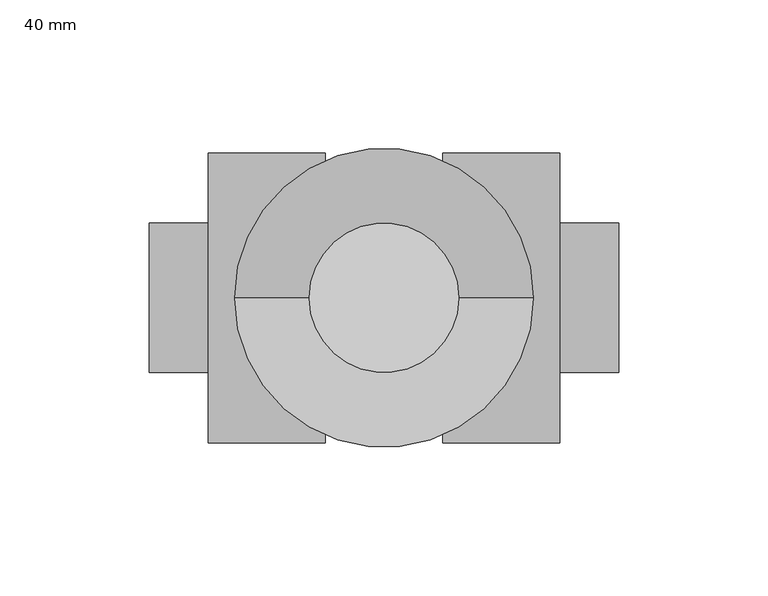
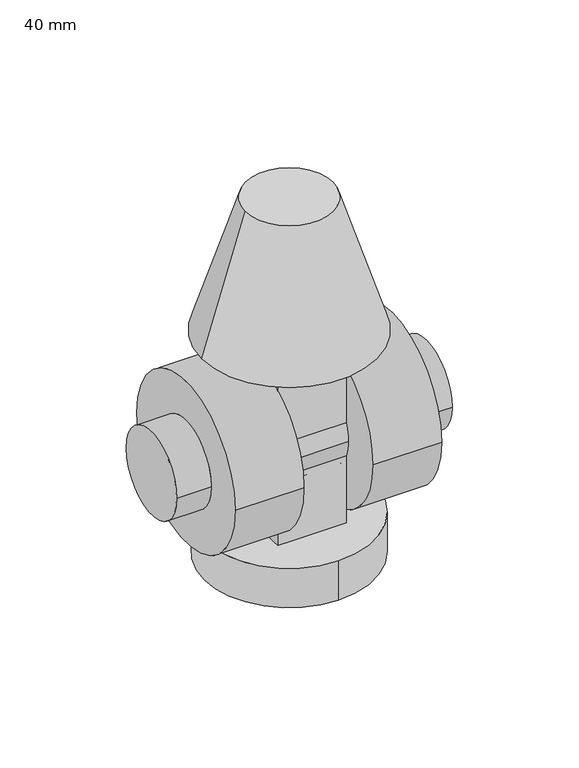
"""IFC4 building model written with IfcOpenShell, lengths in millimetres: valve geometry, Vanne Mitigeuse DN40 : 40 mm."""

from ifc_helpers import new_model, si_unit, point, frame, origin, origin_2d, place, context, project, spatial, polyline, circle_curve, trimmed, segment, composite_curve, outline, extrude, source, transform, mapped, element, save
from ifc_brep_helpers import plane_surface, cylinder_surface, revolved_surface, advanced_brep


def valve_40_mm_2b461cc3(model_context):
    return source(origin(), model_context, "Body", "SolidModel", [
        extrude(outline(composite_curve([segment(trimmed(circle_curve(origin_2d(), 25.0), [point((-25.0, 0.0))], [point((25.0, 0.0))], False, "CARTESIAN"), True, "CONTINUOUS"), segment(trimmed(circle_curve(origin_2d(), 25.0), [point((25.0, 0.0))], [point((-25.0, 0.0))], False, "CARTESIAN"), True, "CONTINUOUS")], self_intersect=False)), frame((0.0, 0.0, -86.625), z_axis=(0.0, 0.0, 1.0), x_axis=(1.0, 0.0, 0.0)), (0.0, 0.0, 1.0), 11.875),
        extrude(outline(composite_curve([segment(trimmed(circle_curve(origin_2d(), 48.5), [point((0.0, -48.5))], [point((0.0, 48.5))], False, "CARTESIAN"), True, "CONTINUOUS"), segment(trimmed(circle_curve(origin_2d(), 48.5), [point((0.0, 48.5))], [point((0.0, -48.5))], False, "CARTESIAN"), True, "CONTINUOUS")], self_intersect=False)), frame((0.0, 0.0, -74.75), z_axis=(0.0, 0.0, 1.0), x_axis=(1.0, 0.0, 0.0)), (0.0, 0.0, 1.0), 23.75),
        advanced_brep(
        [(19.625, 22.5, 59.0257758), (-19.625, 22.5, 59.0257758), (-19.625, -22.5, 59.0257758), (19.625, -22.5, 59.0257758), (19.625, 22.5, -51.0), (19.625, -22.5, -51.0), (-19.625, -22.5, -51.0), (-19.625, 22.5, -51.0), (19.625, 22.5, 42.9651021), (19.625, 22.5, -42.9651021), (-19.625, 22.5, -42.9651021), (-19.625, 22.5, 42.9651021), (-19.625, -22.5, 42.9651021), (-19.625, -22.5, -42.9651021), (19.625, -22.5, -42.9651021), (19.625, -22.5, 42.9651021), (-58.875, -48.5, 0.0), (-58.875, 48.5, 0.0), (-58.875, 25.0, 0.0), (-58.875, -25.0, 0.0), (-19.625, 48.5, 0.0), (-19.625, -48.5, 0.0), (-78.5, -25.0, 0.0), (-78.5, 25.0, 0.0), (19.625, 48.5, 0.0), (19.625, -48.5, 0.0), (58.875, -48.5, 0.0), (58.875, 48.5, 0.0), (58.875, -25.0, 0.0), (58.875, 25.0, 0.0), (78.5, -25.0, 0.0), (78.5, 25.0, 0.0)],
        [
            (0, 1),
            (1, 2),
            (2, 3),
            (3, 0),
            (4, 5),
            (5, 6),
            (6, 7),
            (7, 4),
            (0, 8),
            (8, 9),
            (9, 4),
            (7, 10),
            (10, 11),
            (11, 1),
            (11, 12, circle_curve(frame((-19.625, 0.0, 0.0), z_axis=(1.0, 0.0, 0.0), x_axis=(0.0, 1.0, 0.0)), 48.5)),
            (12, 2),
            (6, 13),
            (13, 10, circle_curve(frame((-19.625, 0.0, 0.0), z_axis=(1.0, 0.0, 0.0), x_axis=(0.0, 1.0, 0.0)), 48.5)),
            (12, 13),
            (5, 14),
            (14, 15),
            (15, 3),
            (15, 8, circle_curve(frame((19.625, 0.0, 0.0), z_axis=(-1.0, 0.0, 0.0), x_axis=(0.0, 1.0, 0.0)), 48.5)),
            (9, 14, circle_curve(frame((19.625, 0.0, 0.0), z_axis=(-1.0, 0.0, 0.0), x_axis=(0.0, 1.0, 0.0)), 48.5)),
            (16, 17, circle_curve(frame((-58.875, 0.0, 0.0), z_axis=(-1.0, 0.0, 0.0), x_axis=(0.0, 1.0, 0.0)), 48.5)),
            (17, 16, circle_curve(frame((-58.875, 0.0, 0.0), z_axis=(-1.0, 0.0, 0.0), x_axis=(0.0, 1.0, 0.0)), 48.5)),
            (18, 19, circle_curve(frame((-58.875, 0.0, 0.0), z_axis=(1.0, 0.0, 0.0), x_axis=(0.0, 1.0, 0.0)), 25.0)),
            (19, 18, circle_curve(frame((-58.875, 0.0, 0.0), z_axis=(1.0, 0.0, 0.0), x_axis=(0.0, 1.0, 0.0)), 25.0)),
            (20, 11, circle_curve(frame((-19.625, 0.0, 0.0), z_axis=(1.0, 0.0, 0.0), x_axis=(0.0, 1.0, 0.0)), 48.5)),
            (10, 20, circle_curve(frame((-19.625, 0.0, 0.0), z_axis=(1.0, 0.0, 0.0), x_axis=(0.0, 1.0, 0.0)), 48.5)),
            (12, 21, circle_curve(frame((-19.625, 0.0, 0.0), z_axis=(1.0, 0.0, 0.0), x_axis=(0.0, 1.0, 0.0)), 48.5)),
            (21, 13, circle_curve(frame((-19.625, 0.0, 0.0), z_axis=(1.0, 0.0, 0.0), x_axis=(0.0, 1.0, 0.0)), 48.5)),
            (16, 21),
            (20, 17),
            (22, 23, circle_curve(frame((-78.5, 0.0, 0.0), z_axis=(-1.0, 0.0, 0.0), x_axis=(0.0, 1.0, 0.0)), 25.0)),
            (23, 22, circle_curve(frame((-78.5, 0.0, 0.0), z_axis=(-1.0, 0.0, 0.0), x_axis=(0.0, 1.0, 0.0)), 25.0)),
            (22, 19),
            (18, 23),
            (8, 24, circle_curve(frame((19.625, 0.0, 0.0), z_axis=(-1.0, 0.0, 0.0), x_axis=(0.0, 1.0, 0.0)), 48.5)),
            (24, 9, circle_curve(frame((19.625, 0.0, 0.0), z_axis=(-1.0, 0.0, 0.0), x_axis=(0.0, 1.0, 0.0)), 48.5)),
            (25, 15, circle_curve(frame((19.625, 0.0, 0.0), z_axis=(-1.0, 0.0, 0.0), x_axis=(0.0, 1.0, 0.0)), 48.5)),
            (14, 25, circle_curve(frame((19.625, 0.0, 0.0), z_axis=(-1.0, 0.0, 0.0), x_axis=(0.0, 1.0, 0.0)), 48.5)),
            (26, 27, circle_curve(frame((58.875, 0.0, 0.0), z_axis=(1.0, 0.0, 0.0), x_axis=(0.0, 1.0, 0.0)), 48.5)),
            (27, 26, circle_curve(frame((58.875, 0.0, 0.0), z_axis=(1.0, 0.0, 0.0), x_axis=(0.0, 1.0, 0.0)), 48.5)),
            (28, 29, circle_curve(frame((58.875, 0.0, 0.0), z_axis=(-1.0, 0.0, 0.0), x_axis=(0.0, 1.0, 0.0)), 25.0)),
            (29, 28, circle_curve(frame((58.875, 0.0, 0.0), z_axis=(-1.0, 0.0, 0.0), x_axis=(0.0, 1.0, 0.0)), 25.0)),
            (27, 24),
            (25, 26),
            (30, 31, circle_curve(frame((78.5, 0.0, 0.0), z_axis=(1.0, 0.0, 0.0), x_axis=(0.0, 1.0, 0.0)), 25.0)),
            (31, 30, circle_curve(frame((78.5, 0.0, 0.0), z_axis=(1.0, 0.0, 0.0), x_axis=(0.0, 1.0, 0.0)), 25.0)),
            (31, 29),
            (28, 30),
        ],
        [
            plane_surface(frame((-19.625, 22.5, 59.0257758), z_axis=(0.0, 0.0, 1.0), x_axis=(-1.0, 0.0, 0.0))),
            plane_surface(frame((-19.625, 22.5, -51.0), z_axis=(0.0, 0.0, -1.0), x_axis=(1.0, 0.0, 0.0))),
            plane_surface(frame((19.625, 22.5, 59.0257758), z_axis=(0.0, 1.0, 0.0), x_axis=(0.0, 0.0, -1.0))),
            plane_surface(frame((-19.625, 22.5, 59.0257758), z_axis=(-1.0, 0.0, 0.0), x_axis=(0.0, 0.0, -1.0))),
            plane_surface(frame((-19.625, -22.5, 59.0257758), z_axis=(0.0, -1.0, 0.0), x_axis=(0.0, 0.0, -1.0))),
            plane_surface(frame((19.625, -22.5, 59.0257758), z_axis=(1.0, 0.0, 0.0), x_axis=(0.0, 0.0, -1.0))),
            plane_surface(frame((-58.875, 0.0, 0.0), z_axis=(-1.0, 0.0, 0.0), x_axis=(0.0, 0.0, 1.0))),
            plane_surface(frame((-19.625, 0.0, 0.0), z_axis=(1.0, 0.0, 0.0), x_axis=(0.0, 0.0, 1.0))),
            cylinder_surface(frame((-58.875, 0.0, 0.0), z_axis=(-1.0, 0.0, 0.0), x_axis=(0.0, 1.0, 0.0)), 48.5),
            plane_surface(frame((-78.5, 0.0, 0.0), z_axis=(-1.0, 0.0, 0.0), x_axis=(0.0, 0.0, 1.0))),
            cylinder_surface(frame((-78.5, 0.0, 0.0), z_axis=(-1.0, 0.0, 0.0), x_axis=(0.0, 1.0, 0.0)), 25.0),
            plane_surface(frame((19.625, 0.0, 0.0), z_axis=(-1.0, 0.0, 0.0), x_axis=(0.0, 0.0, 1.0))),
            plane_surface(frame((58.875, 0.0, 0.0), z_axis=(1.0, 0.0, 0.0), x_axis=(0.0, 0.0, 1.0))),
            cylinder_surface(frame((19.625, 0.0, 0.0), z_axis=(-1.0, 0.0, 0.0), x_axis=(0.0, 1.0, 0.0)), 48.5),
            plane_surface(frame((78.5, 0.0, 0.0), z_axis=(1.0, 0.0, 0.0), x_axis=(0.0, 0.0, 1.0))),
            cylinder_surface(frame((58.875, 0.0, 0.0), z_axis=(-1.0, 0.0, 0.0), x_axis=(0.0, 1.0, 0.0)), 25.0),
        ],
        [
            (0, [[1, 2, 3, 4]]),
            (1, [[5, 6, 7, 8]]),
            (2, [[-1, 9, 10, 11, -8, 12, 13, 14]]),
            (3, [[-2, -14, 15, 16]]),
            (3, [[-7, 17, 18, -12]]),
            (4, [[-3, -16, 19, -17, -6, 20, 21, 22]]),
            (5, [[-4, -22, 23, -9]]),
            (5, [[-5, -11, 24, -20]]),
            (6, [[25, 26], [27, 28]]),
            (7, [[29, -13, 30]]),
            (7, [[31, 32, -19]]),
            (8, [[-25, 33, -31, -15, -29, 34]]),
            (8, [[-26, -34, -30, -18, -32, -33]]),
            (9, [[35, 36]]),
            (10, [[-35, 37, -27, 38]]),
            (10, [[-36, -38, -28, -37]]),
            (11, [[39, 40, -10]]),
            (11, [[41, -21, 42]]),
            (12, [[43, 44], [45, 46]]),
            (13, [[-44, 47, -39, -23, -41, 48]]),
            (13, [[-43, -48, -42, -24, -40, -47]]),
            (14, [[49, 50]]),
            (15, [[-50, 51, -45, 52]]),
            (15, [[-49, -52, -46, -51]]),
        ],
    ),
        extrude(outline(composite_curve([segment(trimmed(circle_curve(origin_2d(), 25.0), [point((-25.0, 0.0))], [point((25.0, 0.0))], False, "CARTESIAN"), True, "CONTINUOUS"), segment(trimmed(circle_curve(origin_2d(), 25.0), [point((25.0, 0.0))], [point((-25.0, 0.0))], False, "CARTESIAN"), True, "CONTINUOUS")], self_intersect=False)), frame((-19.625, 0.0, 0.0), z_axis=(1.0, 0.0, 0.0), x_axis=(0.0, 1.0, 0.0)), (0.0, 0.0, 1.0), 39.25),
        advanced_brep(
        [(-25.0, 0.0, 139.0257758), (25.0, 0.0, 139.0257758), (-50.0, 0.0, 59.0257758), (50.0, 0.0, 59.0257758)],
        [
            (0, 1, circle_curve(frame((0.0, 0.0, 139.0257758), z_axis=(0.0, 0.0, 1.0), x_axis=(-1.0, 0.0, 0.0)), 25.0)),
            (1, 0, circle_curve(frame((0.0, 0.0, 139.0257758), z_axis=(0.0, 0.0, 1.0), x_axis=(1.0, 0.0, 0.0)), 25.0)),
            (2, 3, circle_curve(frame((0.0, 0.0, 59.0257758), z_axis=(0.0, 0.0, -1.0), x_axis=(1.0, 0.0, 0.0)), 50.0)),
            (3, 2, circle_curve(frame((0.0, 0.0, 59.0257758), z_axis=(0.0, 0.0, -1.0), x_axis=(-1.0, 0.0, 0.0)), 50.0)),
            (3, 1),
            (0, 2),
        ],
        [
            plane_surface(frame((0.0, 0.0, 139.0257758), z_axis=(0.0, 0.0, 1.0), x_axis=(0.0, -1.0, 0.0))),
            plane_surface(frame((0.0, 0.0, 59.0257758), z_axis=(0.0, 0.0, -1.0), x_axis=(0.0, -1.0, 0.0))),
            revolved_surface(polyline([(-25.0, 0.0, 139.0257758), (-50.0, 0.0, 59.02577579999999)]), (0.0, 0.0, 219.0257758), (0.0, 0.0, -1.0)),
            revolved_surface(polyline([(25.0, 0.0, 139.0257758), (50.0, 0.0, 59.02577579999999)]), (0.0, 0.0, 219.0257758), (0.0, 0.0, -1.0)),
        ],
        [
            (0, [[1, 2]]),
            (1, [[3, 4]]),
            (2, [[-4, 5, -1, 6]]),
            (3, [[-3, -6, -2, -5]]),
        ],
    ),
    ])


if __name__ == "__main__":
    model = new_model("IFC4")
    model_context = context("Model", 3, world=origin())
    ifc_project = project(units=[si_unit("LENGTHUNIT", "METRE", prefix="MILLI")], contexts=[model_context])
    site = spatial("IfcSite", under=ifc_project)
    building = spatial("IfcBuilding", under=site)
    placement = place(None, origin())
    valve_40_mm_shape = valve_40_mm_2b461cc3(model_context)
    element("IfcValve", 1, ObjectType="Vanne Mitigeuse DN40 : 40 mm", at=placement, inside=building, context=model_context, shape_type="MappedRepresentation", body=[
        mapped(valve_40_mm_shape, transform((0.0, 0.0, 0.0), x_axis=(1.0, 0.0, 0.0), y_axis=(0.0, 1.0, 0.0), z_axis=(0.0, 0.0, 1.0))),
    ])
    save(model, "model.ifc")
